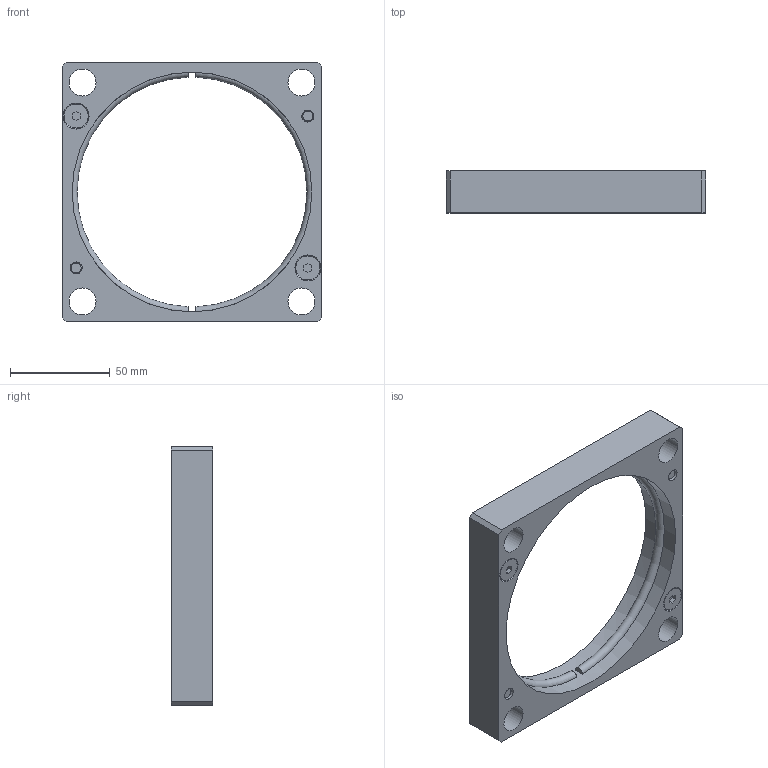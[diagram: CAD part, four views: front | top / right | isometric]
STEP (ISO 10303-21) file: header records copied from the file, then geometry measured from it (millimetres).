
FILE_DESCRIPTION(/* description */ (''),/* implementation_level */ '2;1');
FILE_NAME(/* name */ 'C:\Users\Jefferson\Desktop\Biblioteca Pro Nitro 2024 - Inventor\Flanges\PNB-65-XXX\PNB-65-120.stp',/* time_stamp */ '2024-12-30T16:37:04-03:00',/* author */ ('Jefferson'),/* organization */ (''),/* preprocessor_version */ 'ST-DEVELOPER v19',/* originating_system */ 'Autodesk Inventor 2023',/* authorisation */ '');
FILE_SCHEMA (('AUTOMOTIVE_DESIGN { 1 0 10303 214 3 1 1 }'));
Length unit declared in the file: millimetre
Products named in the file (3): PNB-65-120; DNB-0016-120; DIN 7991 - M6x20
Assembly tree (5 placements, depth 2):
  PNB-65-120
    DNB-0016-120
    DIN 7991 - M6x20  x4
Bounding box: 130 x 21 x 130 mm (x, y, z)
Volume: 108410.4 mm3; surface area: 37078.6 mm2
Topology: 5 solids, 5 shells, 239 faces, 621 edges, 412 vertices
Faces by surface type: plane 126, bspline 78, cylinder 17, cone 12, torus 6
Full cylindrical faces by diameter (mm): 6 x8, 12 x4, 13.5 x4, 120 x1
Entity records: 6754 total; most frequent: CARTESIAN_POINT 2161, ORIENTED_EDGE 1050, DIRECTION 659, EDGE_CURVE 525, VERTEX_POINT 349, LINE 325, VECTOR 325, EDGE_LOOP 232
